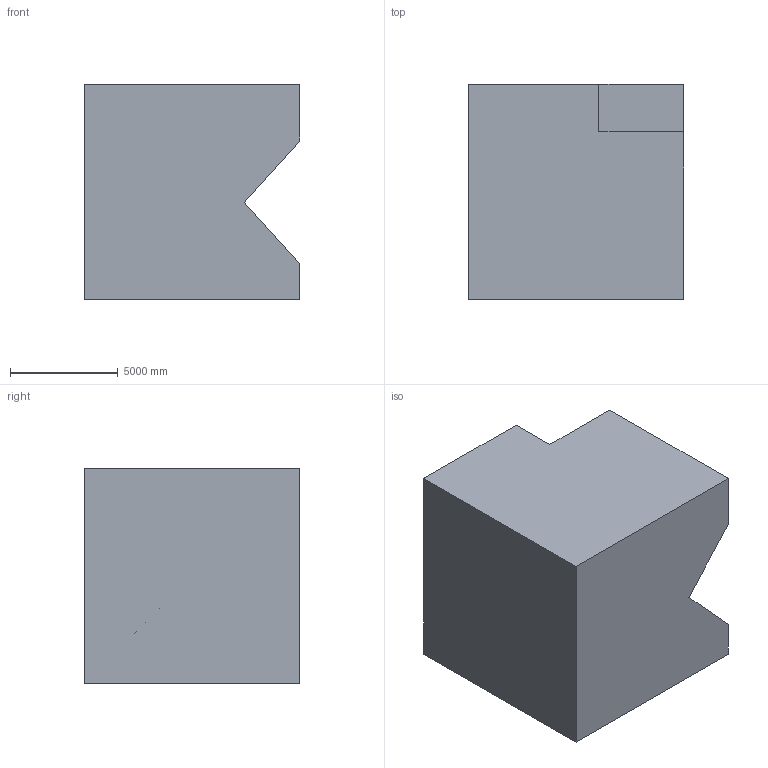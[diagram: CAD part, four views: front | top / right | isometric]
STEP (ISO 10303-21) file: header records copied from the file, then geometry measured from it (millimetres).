
FILE_DESCRIPTION (( 'STEP AP203' ), '1' );
FILE_NAME ('181.STEP', '2022-07-28T13:49:57', ( 'user' ), ( '' ), 'SwSTEP 2.0', 'SolidWorks 2021', '' );
FILE_SCHEMA (( 'CONFIG_CONTROL_DESIGN' ));
Length unit declared in the file: centimetre
Products named in the file (1): 181
Bounding box: 10000 x 10000 x 10000 mm (x, y, z)
Volume: 905877835291.3 mm3; surface area: 605236680.7 mm2
Topology: 1 solids, 1 shells, 12 faces, 30 edges, 20 vertices
Faces by surface type: plane 12
Entity records: 431 total; most frequent: CARTESIAN_POINT 63, ORIENTED_EDGE 60, DIRECTION 56, VECTOR 30, LINE 30, EDGE_CURVE 30, VERTEX_POINT 20, AXIS2_PLACEMENT_3D 13
